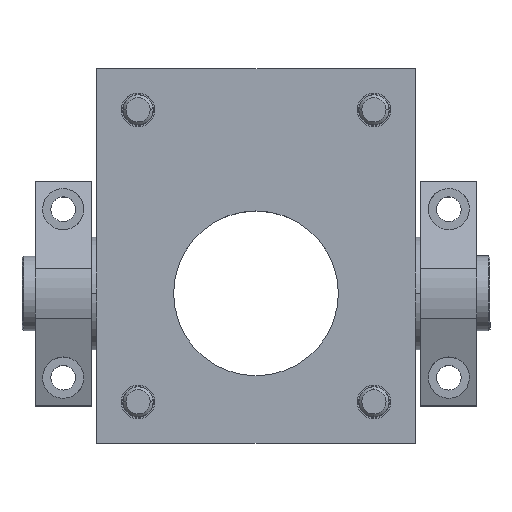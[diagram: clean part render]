
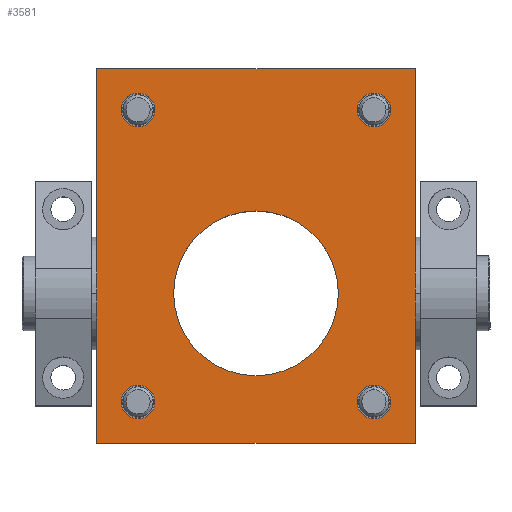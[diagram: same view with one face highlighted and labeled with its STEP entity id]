
A CAD part, top view. The second image highlights one B-rep face of the part: STEP entity #3581.
In plain terms, the highlighted planar face has unit normal (0, 0, 1).
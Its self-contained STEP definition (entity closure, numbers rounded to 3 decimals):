
#83 = ORIENTED_EDGE ( 'NONE', *, *, #818, .T. ) ;
#111 = DIRECTION ( 'NONE',  ( 0., 0., -1. ) ) ;
#203 = CARTESIAN_POINT ( 'NONE',  ( 31.5, -29., -32. ) ) ;
#249 = ORIENTED_EDGE ( 'NONE', *, *, #5468, .T. ) ;
#310 = CIRCLE ( 'NONE', #7264, 4.5 ) ;
#348 = ORIENTED_EDGE ( 'NONE', *, *, #6090, .T. ) ;
#394 = LINE ( 'NONE', #6220, #2941 ) ;
#551 = CARTESIAN_POINT ( 'NONE',  ( 31.5, -33.5, -32. ) ) ;
#613 = ORIENTED_EDGE ( 'NONE', *, *, #2668, .T. ) ;
#688 = AXIS2_PLACEMENT_3D ( 'NONE', #1816, #2551, #5111 ) ;
#707 = CARTESIAN_POINT ( 'NONE',  ( 0., 0., -32. ) ) ;
#725 = EDGE_CURVE ( 'NONE', #3041, #4602, #394, .T. ) ;
#818 = EDGE_CURVE ( 'NONE', #5649, #5845, #2802, .T. ) ;
#839 = DIRECTION ( 'NONE',  ( 0., 1., 0. ) ) ;
#909 = EDGE_LOOP ( 'NONE', ( #7514, #249 ) ) ;
#950 = DIRECTION ( 'NONE',  ( 0., 0., -1. ) ) ;
#1067 = VERTEX_POINT ( 'NONE', #2211 ) ;
#1085 = AXIS2_PLACEMENT_3D ( 'NONE', #7310, #950, #1486 ) ;
#1123 = FACE_BOUND ( 'NONE', #5926, .T. ) ;
#1225 = EDGE_CURVE ( 'NONE', #3348, #6033, #1226, .T. ) ;
#1226 = CIRCLE ( 'NONE', #3485, 4.5 ) ;
#1243 = CARTESIAN_POINT ( 'NONE',  ( 42.5, 60., -32. ) ) ;
#1311 = DIRECTION ( 'NONE',  ( 0., 0., -1. ) ) ;
#1329 = DIRECTION ( 'NONE',  ( 0., 0., -1. ) ) ;
#1340 = AXIS2_PLACEMENT_3D ( 'NONE', #203, #7155, #839 ) ;
#1382 = AXIS2_PLACEMENT_3D ( 'NONE', #1784, #6899, #5668 ) ;
#1486 = DIRECTION ( 'NONE',  ( 0., 1., 0. ) ) ;
#1730 = DIRECTION ( 'NONE',  ( 0., 1., 0. ) ) ;
#1771 = DIRECTION ( 'NONE',  ( 0., 1., 0. ) ) ;
#1784 = CARTESIAN_POINT ( 'NONE',  ( 0., 10., -32. ) ) ;
#1816 = CARTESIAN_POINT ( 'NONE',  ( -31.5, 49., -32. ) ) ;
#1877 = CARTESIAN_POINT ( 'NONE',  ( -31.5, -33.5, -32. ) ) ;
#2016 = EDGE_CURVE ( 'NONE', #3647, #8069, #7566, .T. ) ;
#2043 = CARTESIAN_POINT ( 'NONE',  ( -31.5, 44.5, -32. ) ) ;
#2130 = EDGE_CURVE ( 'NONE', #5845, #5649, #6988, .T. ) ;
#2153 = DIRECTION ( 'NONE',  ( 0., 1., 0. ) ) ;
#2211 = CARTESIAN_POINT ( 'NONE',  ( 31.5, 53.5, -32. ) ) ;
#2212 = VERTEX_POINT ( 'NONE', #5787 ) ;
#2306 = CARTESIAN_POINT ( 'NONE',  ( -31.5, -29., -32. ) ) ;
#2402 = DIRECTION ( 'NONE',  ( 0., 1., 0. ) ) ;
#2404 = PLANE ( 'NONE',  #1382 ) ;
#2504 = DIRECTION ( 'NONE',  ( 0., 0., -1. ) ) ;
#2524 = CARTESIAN_POINT ( 'NONE',  ( 42.5, -40., -32. ) ) ;
#2551 = DIRECTION ( 'NONE',  ( 0., 0., -1. ) ) ;
#2668 = EDGE_CURVE ( 'NONE', #4862, #2212, #2795, .T. ) ;
#2780 = CARTESIAN_POINT ( 'NONE',  ( -42.5, 60., -32. ) ) ;
#2795 = CIRCLE ( 'NONE', #1340, 4.5 ) ;
#2802 = CIRCLE ( 'NONE', #688, 4.5 ) ;
#2865 = CARTESIAN_POINT ( 'NONE',  ( 42.5, -40., -32. ) ) ;
#2878 = EDGE_CURVE ( 'NONE', #2212, #4862, #2935, .T. ) ;
#2935 = CIRCLE ( 'NONE', #1085, 4.5 ) ;
#2941 = VECTOR ( 'NONE', #1771, 1000. ) ;
#3028 = CARTESIAN_POINT ( 'NONE',  ( -31.5, 49., -32. ) ) ;
#3029 = FACE_BOUND ( 'NONE', #909, .T. ) ;
#3041 = VERTEX_POINT ( 'NONE', #5356 ) ;
#3095 = CARTESIAN_POINT ( 'NONE',  ( 42.5, 60., -32. ) ) ;
#3126 = AXIS2_PLACEMENT_3D ( 'NONE', #707, #111, #2153 ) ;
#3130 = DIRECTION ( 'NONE',  ( 0., 1., 0. ) ) ;
#3226 = EDGE_LOOP ( 'NONE', ( #348, #3359 ) ) ;
#3260 = LINE ( 'NONE', #3095, #7825 ) ;
#3348 = VERTEX_POINT ( 'NONE', #6721 ) ;
#3359 = ORIENTED_EDGE ( 'NONE', *, *, #7262, .T. ) ;
#3364 = AXIS2_PLACEMENT_3D ( 'NONE', #5192, #1311, #5739 ) ;
#3398 = VECTOR ( 'NONE', #4101, 1000. ) ;
#3404 = VERTEX_POINT ( 'NONE', #5220 ) ;
#3485 = AXIS2_PLACEMENT_3D ( 'NONE', #3841, #2504, #7584 ) ;
#3581 = ADVANCED_FACE ( 'NONE', ( #6856, #1123, #6229, #3029, #5589, #8146 ), #2404, .T. ) ;
#3618 = DIRECTION ( 'NONE',  ( 0., 0., -1. ) ) ;
#3647 = VERTEX_POINT ( 'NONE', #1243 ) ;
#3732 = CARTESIAN_POINT ( 'NONE',  ( -31.5, 53.5, -32. ) ) ;
#3841 = CARTESIAN_POINT ( 'NONE',  ( -31.5, -29., -32. ) ) ;
#3932 = CIRCLE ( 'NONE', #5411, 4.5 ) ;
#4014 = LINE ( 'NONE', #7846, #3398 ) ;
#4065 = ORIENTED_EDGE ( 'NONE', *, *, #4077, .T. ) ;
#4077 = EDGE_CURVE ( 'NONE', #4902, #3404, #6583, .T. ) ;
#4101 = DIRECTION ( 'NONE',  ( -1., 0., 0. ) ) ;
#4159 = ORIENTED_EDGE ( 'NONE', *, *, #7152, .F. ) ;
#4370 = VERTEX_POINT ( 'NONE', #7961 ) ;
#4602 = VERTEX_POINT ( 'NONE', #2780 ) ;
#4674 = EDGE_LOOP ( 'NONE', ( #5453, #613 ) ) ;
#4713 = AXIS2_PLACEMENT_3D ( 'NONE', #6431, #1329, #3130 ) ;
#4862 = VERTEX_POINT ( 'NONE', #551 ) ;
#4902 = VERTEX_POINT ( 'NONE', #6319 ) ;
#5111 = DIRECTION ( 'NONE',  ( 0., 1., 0. ) ) ;
#5181 = ORIENTED_EDGE ( 'NONE', *, *, #2130, .T. ) ;
#5192 = CARTESIAN_POINT ( 'NONE',  ( 0., 0., -32. ) ) ;
#5220 = CARTESIAN_POINT ( 'NONE',  ( 0., 22., -32. ) ) ;
#5356 = CARTESIAN_POINT ( 'NONE',  ( -42.5, -40., -32. ) ) ;
#5411 = AXIS2_PLACEMENT_3D ( 'NONE', #6759, #6706, #1730 ) ;
#5453 = ORIENTED_EDGE ( 'NONE', *, *, #2878, .T. ) ;
#5468 = EDGE_CURVE ( 'NONE', #6033, #3348, #310, .T. ) ;
#5486 = EDGE_LOOP ( 'NONE', ( #7372, #4065 ) ) ;
#5529 = CIRCLE ( 'NONE', #4713, 4.5 ) ;
#5589 = FACE_BOUND ( 'NONE', #3226, .T. ) ;
#5608 = DIRECTION ( 'NONE',  ( 0., 0., -1. ) ) ;
#5649 = VERTEX_POINT ( 'NONE', #3732 ) ;
#5668 = DIRECTION ( 'NONE',  ( 0., -1., 0. ) ) ;
#5739 = DIRECTION ( 'NONE',  ( 0., 1., 0. ) ) ;
#5787 = CARTESIAN_POINT ( 'NONE',  ( 31.5, -24.5, -32. ) ) ;
#5845 = VERTEX_POINT ( 'NONE', #2043 ) ;
#5926 = EDGE_LOOP ( 'NONE', ( #83, #5181 ) ) ;
#6033 = VERTEX_POINT ( 'NONE', #1877 ) ;
#6090 = EDGE_CURVE ( 'NONE', #1067, #4370, #5529, .T. ) ;
#6178 = DIRECTION ( 'NONE',  ( 0., -1., 0. ) ) ;
#6220 = CARTESIAN_POINT ( 'NONE',  ( -42.5, 60., -32. ) ) ;
#6229 = FACE_BOUND ( 'NONE', #4674, .T. ) ;
#6319 = CARTESIAN_POINT ( 'NONE',  ( 0., -22., -32. ) ) ;
#6431 = CARTESIAN_POINT ( 'NONE',  ( 31.5, 49., -32. ) ) ;
#6445 = AXIS2_PLACEMENT_3D ( 'NONE', #3028, #3618, #2402 ) ;
#6583 = CIRCLE ( 'NONE', #3364, 22. ) ;
#6706 = DIRECTION ( 'NONE',  ( 0., 0., -1. ) ) ;
#6721 = CARTESIAN_POINT ( 'NONE',  ( -31.5, -24.5, -32. ) ) ;
#6746 = CIRCLE ( 'NONE', #3126, 22. ) ;
#6759 = CARTESIAN_POINT ( 'NONE',  ( 31.5, 49., -32. ) ) ;
#6856 = FACE_BOUND ( 'NONE', #5486, .T. ) ;
#6899 = DIRECTION ( 'NONE',  ( 0., 0., 1. ) ) ;
#6988 = CIRCLE ( 'NONE', #6445, 4.5 ) ;
#7077 = DIRECTION ( 'NONE',  ( 1., 0., 0. ) ) ;
#7152 = EDGE_CURVE ( 'NONE', #8069, #3041, #4014, .T. ) ;
#7155 = DIRECTION ( 'NONE',  ( 0., 0., -1. ) ) ;
#7206 = ORIENTED_EDGE ( 'NONE', *, *, #725, .F. ) ;
#7241 = EDGE_LOOP ( 'NONE', ( #7601, #7206, #4159, #8003 ) ) ;
#7249 = VECTOR ( 'NONE', #6178, 1000. ) ;
#7262 = EDGE_CURVE ( 'NONE', #4370, #1067, #3932, .T. ) ;
#7264 = AXIS2_PLACEMENT_3D ( 'NONE', #2306, #5608, #7511 ) ;
#7310 = CARTESIAN_POINT ( 'NONE',  ( 31.5, -29., -32. ) ) ;
#7365 = EDGE_CURVE ( 'NONE', #4602, #3647, #3260, .T. ) ;
#7372 = ORIENTED_EDGE ( 'NONE', *, *, #7886, .T. ) ;
#7511 = DIRECTION ( 'NONE',  ( 0., 1., 0. ) ) ;
#7514 = ORIENTED_EDGE ( 'NONE', *, *, #1225, .T. ) ;
#7566 = LINE ( 'NONE', #2524, #7249 ) ;
#7584 = DIRECTION ( 'NONE',  ( 0., 1., 0. ) ) ;
#7601 = ORIENTED_EDGE ( 'NONE', *, *, #7365, .F. ) ;
#7825 = VECTOR ( 'NONE', #7077, 1000. ) ;
#7846 = CARTESIAN_POINT ( 'NONE',  ( -42.5, -40., -32. ) ) ;
#7886 = EDGE_CURVE ( 'NONE', #3404, #4902, #6746, .T. ) ;
#7961 = CARTESIAN_POINT ( 'NONE',  ( 31.5, 44.5, -32. ) ) ;
#8003 = ORIENTED_EDGE ( 'NONE', *, *, #2016, .F. ) ;
#8069 = VERTEX_POINT ( 'NONE', #2865 ) ;
#8146 = FACE_OUTER_BOUND ( 'NONE', #7241, .T. ) ;
